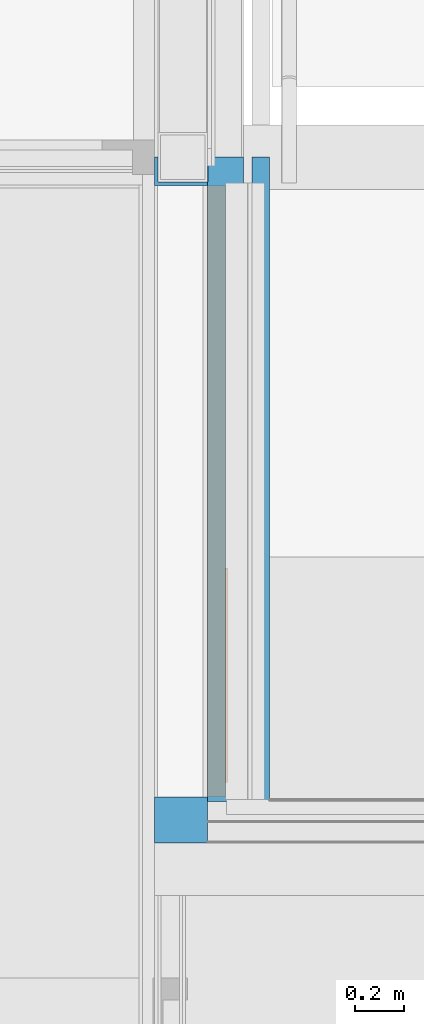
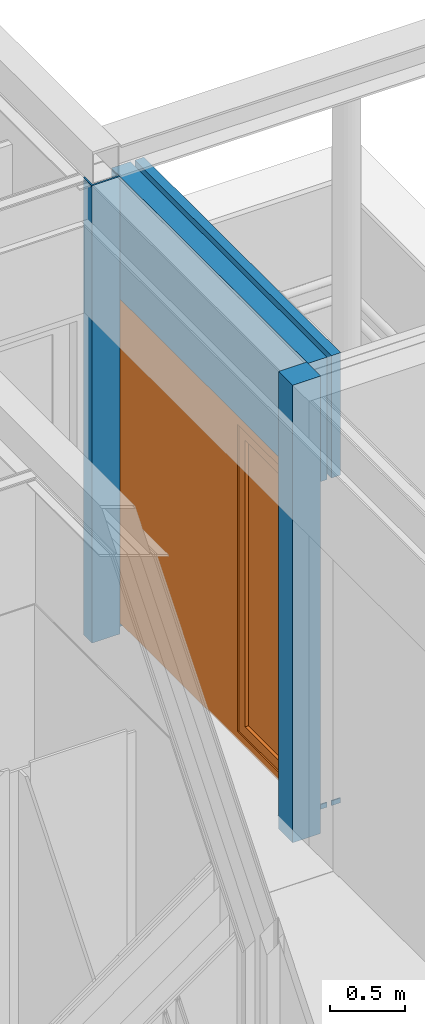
# One storey, part 91 of 137: 3 building element parts, 1 proxy, 1 opening, 1 element without a shape of its own.
"""IFC2X3 building model written with IfcOpenShell, lengths in millimetres."""

from ifc_helpers import new_model, entity, si_unit, converted_unit, derived_unit, money_unit, direction, frame, origin_with_axes, place, context, subcontext, project, spatial, open_shell, faceted_brep, surface_model, material, type_object, element, fill, aggregate, save


model = new_model("IFC2X3")

# Units and contexts
model_context = context("Model", 3, precision=0.01, world=origin_with_axes(), true_north=direction((0.0, 1.0)))
body_context = subcontext(model_context, "Body", "Model", "MODEL_VIEW")
ifc_project = project(units=[si_unit("LENGTHUNIT", "METRE", prefix="MILLI"), si_unit("AREAUNIT", "SQUARE_METRE"), si_unit("VOLUMEUNIT", "CUBIC_METRE"), converted_unit("PLANEANGLEUNIT", "DEGREE", entity("IfcPlaneAngleMeasure", 0.0174532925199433), si_unit("PLANEANGLEUNIT", "RADIAN"), dimensions=[0, 0, 0, 0, 0, 0, 0]), money_unit("EUR"), converted_unit("TIMEUNIT", "Year", entity("IfcTimeMeasure", 31556926.0), si_unit("TIMEUNIT", "SECOND"), dimensions=[0, 0, 1, 0, 0, 0, 0]), si_unit("MASSUNIT", "GRAM", prefix="KILO"), si_unit("THERMODYNAMICTEMPERATUREUNIT", "DEGREE_CELSIUS"), si_unit("LUMINOUSINTENSITYUNIT", "LUMEN"), si_unit("ENERGYUNIT", "JOULE", prefix="MEGA"), derived_unit("THERMALCONDUCTANCEUNIT", [(si_unit("POWERUNIT", "WATT"), 1), (si_unit("LENGTHUNIT", "METRE"), -1), (si_unit("THERMODYNAMICTEMPERATUREUNIT", "KELVIN"), -1)]), derived_unit("SPECIFICHEATCAPACITYUNIT", [(si_unit("ENERGYUNIT", "JOULE"), 1), (si_unit("MASSUNIT", "GRAM", prefix="KILO"), -1), (si_unit("THERMODYNAMICTEMPERATUREUNIT", "KELVIN"), -1)]), derived_unit("MASSDENSITYUNIT", [(si_unit("MASSUNIT", "GRAM", prefix="KILO"), 1), (si_unit("VOLUMEUNIT", "CUBIC_METRE"), -1)])], contexts=[model_context])

# Site, building, storey
site_placement = place(None, origin_with_axes())
site = spatial("IfcSite", under=ifc_project, at=site_placement, Name="Site", CompositionType="ELEMENT")
building_placement = place(site_placement, origin_with_axes())
building = spatial("IfcBuilding", under=site, at=building_placement, Name="Naam gebouw", CompositionType="ELEMENT")
storey_placement = place(building_placement, frame((0.0, 0.0, 3960.0), z_axis=(0.0, 0.0, 1.0), x_axis=(1.0, 0.0, 0.0)))
storey = spatial("IfcBuildingStorey", under=building, at=storey_placement, Name="1e verdieping", CompositionType="ELEMENT", Elevation=3960.0)

# Proxy
building_element_proxy_type = type_object("IfcBuildingElementProxyType", Name="Rnx horizontaal 26", PredefinedType="NOTDEFINED")
wall_placement = place(storey_placement, frame((26600.00000223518, 22324.99984707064, -100.0000000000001), z_axis=(0.0, 0.0, 1.0), x_axis=(-8.054688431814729e-10, -1.0, 0.0)))
opening_placement = place(wall_placement, frame((1351.499454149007, 0.0, 90.0000000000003), z_axis=(0.0, 0.0, 1.0), x_axis=(1.0, 0.0, 0.0)))
proxy_placement = place(opening_placement, frame((-1237.500000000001, 0.0, 0.0), z_axis=(0.0, 0.0, 1.0), x_axis=(1.0, 0.0, 0.0)))
proxy = element("IfcBuildingElementProxy", 1, at=proxy_placement, inside=storey, type_object=building_element_proxy_type, Name="_Merk BG", context=body_context, shape_type="SurfaceModel", body=[
    faceted_brep([(2416.999999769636, 72.00000203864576, 2552.0), (2416.999999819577, 10.0000020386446, 2552.0), (2406.999999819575, 10.00000203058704, 2552.0), (2406.999999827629, 2.030589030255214e-06, 2552.0), (2474.999999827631, 2.085361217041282e-06, 2552.0), (2474.999999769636, 72.00000208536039, 2552.0), (2416.999999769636, 72.00000203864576, 68.00000000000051), (2416.999999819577, 10.0000020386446, 68.00000000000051), (2406.999999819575, 10.00000203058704, 68.00000000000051), (2406.999999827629, 2.030589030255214e-06, 68.00000000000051), (2474.999999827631, 2.085361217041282e-06, 68.00000000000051), (2474.999999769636, 72.00000208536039, 68.00000000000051)], [[[0, 1, 2, 3, 4, 5]], [[1, 0, 6, 7]], [[8, 2, 1, 7]], [[2, 8, 9, 3]], [[4, 3, 9, 10]], [[5, 4, 10, 11]], [[6, 0, 5, 11]], [[7, 6, 11, 10, 9, 8]]]),
    faceted_brep([(2416.999999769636, 72.00000203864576, 2552.0), (2416.999999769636, 72.00000203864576, 2562.0), (1548.999999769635, 72.00000133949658, 2562.0), (1548.999999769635, 72.00000133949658, 2552.0), (1490.999999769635, 72.00000129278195, 2552.0), (67.99999976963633, 72.00000014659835, 2552.0), (-2.303650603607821e-07, 72.00000009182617, 2552.0), (-2.303650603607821e-07, 72.00000009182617, 2620.0), (2474.999999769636, 72.00000208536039, 2620.0), (2474.999999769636, 72.00000208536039, 2552.0), (2416.999999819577, 10.0000020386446, 2552.0), (2416.999999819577, 10.0000020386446, 2562.0), (1548.999999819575, 10.00000133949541, 2562.0), (1548.999999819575, 10.00000133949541, 2552.0), (1558.999999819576, 10.00000134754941, 2552.0), (1558.999999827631, 1.347551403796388e-06, 2552.0), (1490.999999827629, 1.292782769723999e-06, 2552.0), (67.99999982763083, 1.465991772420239e-07, 2552.0), (-1.723705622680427e-07, 9.182699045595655e-08, 2552.0), (-1.723705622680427e-07, 9.182699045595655e-08, 2620.0), (2474.999999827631, 2.085361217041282e-06, 2620.0), (2474.999999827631, 2.085361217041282e-06, 2552.0), (2406.999999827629, 2.030589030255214e-06, 2552.0), (2406.999999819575, 10.00000203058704, 2552.0)], [[[0, 1, 2, 3, 4, 5, 6, 7, 8, 9]], [[1, 0, 10, 11]], [[2, 1, 11, 12]], [[3, 2, 12, 13]], [[13, 14, 15, 16, 4, 3]], [[4, 16, 17, 5]], [[5, 17, 18, 6]], [[6, 18, 19, 7]], [[7, 19, 20, 8]], [[8, 20, 21, 9]], [[10, 0, 9, 21, 22, 23]], [[14, 13, 12, 11, 10, 23]], [[14, 23, 22, 15]], [[18, 17, 16, 15, 22, 21, 20, 19]]]),
    faceted_brep([(1558.999999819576, 10.00000134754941, 68.00000000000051), (1548.999999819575, 10.00000133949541, 68.00000000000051), (1548.999999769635, 72.00000133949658, 68.00000000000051), (1490.999999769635, 72.00000129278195, 68.00000000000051), (1490.999999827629, 1.292782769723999e-06, 68.00000000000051), (1558.999999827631, 1.347551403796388e-06, 68.00000000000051), (2406.999999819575, 10.00000203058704, 68.00000000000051), (2416.999999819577, 10.0000020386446, 68.00000000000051), (2416.999999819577, 10.0000020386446, 57.99999999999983), (1548.999999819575, 10.00000133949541, 57.99999999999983), (1548.999999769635, 72.00000133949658, 57.99999999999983), (2416.999999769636, 72.00000203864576, 57.99999999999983), (2416.999999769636, 72.00000203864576, 68.00000000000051), (2474.999999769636, 72.00000208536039, 68.00000000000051), (2474.999999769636, 72.00000208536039, 0.0), (-2.303650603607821e-07, 72.00000009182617, 0.0), (-2.303650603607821e-07, 72.00000009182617, 68.00000000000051), (67.99999976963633, 72.00000014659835, 68.00000000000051), (67.99999982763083, 1.465991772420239e-07, 68.00000000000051), (-1.723705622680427e-07, 9.182699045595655e-08, 68.00000000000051), (-1.723705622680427e-07, 9.182699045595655e-08, 0.0), (2474.999999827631, 2.085361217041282e-06, 0.0), (2474.999999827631, 2.085361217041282e-06, 68.00000000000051), (2406.999999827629, 2.030589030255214e-06, 68.00000000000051)], [[[0, 1, 2, 3, 4, 5]], [[1, 0, 6, 7, 8, 9]], [[10, 2, 1, 9]], [[11, 12, 13, 14, 15, 16, 17, 3, 2, 10]], [[17, 18, 4, 3]], [[5, 4, 18, 19, 20, 21, 22, 23]], [[6, 0, 5, 23]], [[7, 6, 23, 22, 13, 12]], [[7, 12, 11, 8]], [[11, 10, 9, 8]], [[13, 22, 21, 14]], [[14, 21, 20, 15]], [[15, 20, 19, 16]], [[16, 19, 18, 17]]]),
    faceted_brep([(1558.999999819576, 10.00000134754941, 2552.0), (1548.999999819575, 10.00000133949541, 2552.0), (1548.999999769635, 72.00000133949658, 2552.0), (1490.999999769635, 72.00000129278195, 2552.0), (1490.999999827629, 1.292782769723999e-06, 2552.0), (1558.999999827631, 1.347551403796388e-06, 2552.0), (1558.999999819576, 10.00000134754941, 68.00000000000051), (1548.999999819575, 10.00000133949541, 68.00000000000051), (1548.999999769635, 72.00000133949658, 68.00000000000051), (1490.999999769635, 72.00000129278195, 68.00000000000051), (1490.999999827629, 1.292782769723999e-06, 68.00000000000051), (1558.999999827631, 1.347551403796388e-06, 68.00000000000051)], [[[0, 1, 2, 3, 4, 5]], [[1, 0, 6, 7]], [[8, 2, 1, 7]], [[2, 8, 9, 3]], [[9, 10, 4, 3]], [[4, 10, 11, 5]], [[6, 0, 5, 11]], [[7, 6, 11, 10, 9, 8]]]),
    faceted_brep([(67.99999982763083, 1.465991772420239e-07, 67.99999999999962), (-1.723705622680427e-07, 9.182699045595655e-08, 67.99999999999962), (-2.303650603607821e-07, 72.00000009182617, 67.99999999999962), (67.99999976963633, 72.00000014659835, 67.99999999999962), (67.99999982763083, 1.465991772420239e-07, 2552.0), (-1.723705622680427e-07, 9.182699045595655e-08, 2552.0), (-2.303650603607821e-07, 72.00000009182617, 2552.0), (67.99999976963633, 72.00000014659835, 2552.0)], [[[0, 1, 2, 3]], [[0, 4, 5, 1]], [[1, 5, 6, 2]], [[3, 2, 6, 7]], [[4, 0, 3, 7]], [[5, 4, 7, 6]]]),
    faceted_brep([(2322.999999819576, 10.00000196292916, 2468.0), (2416.999999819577, 10.0000020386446, 2468.0), (2416.999999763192, 80.00000203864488, 2468.0), (2322.999999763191, 80.00000196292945, 2468.0), (2322.999999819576, 10.00000196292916, 152.0000000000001), (2416.999999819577, 10.0000020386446, 152.0000000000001), (2416.999999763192, 80.00000203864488, 152.0000000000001), (2322.999999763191, 80.00000196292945, 152.0000000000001)], [[[0, 1, 2, 3]], [[0, 4, 5, 1]], [[1, 5, 6, 2]], [[3, 2, 6, 7]], [[4, 0, 3, 7]], [[5, 4, 7, 6]]]),
    faceted_brep([(1642.999999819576, 10.00000141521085, 152.0000000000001), (1548.999999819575, 10.00000133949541, 152.0000000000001), (1548.99999976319, 80.0000013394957, 152.0000000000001), (1642.999999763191, 80.00000141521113, 152.0000000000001), (1642.999999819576, 10.00000141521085, 2468.0), (1548.999999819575, 10.00000133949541, 2468.0), (1548.99999976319, 80.0000013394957, 2468.0), (1642.999999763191, 80.00000141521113, 2468.0)], [[[0, 1, 2, 3]], [[0, 4, 5, 1]], [[1, 5, 6, 2]], [[3, 2, 6, 7]], [[4, 0, 3, 7]], [[5, 4, 7, 6]]]),
    faceted_brep([(1548.999999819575, 10.00000133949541, 57.99999999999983), (1548.999999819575, 10.00000133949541, 152.0000000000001), (1548.99999976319, 80.0000013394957, 152.0000000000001), (1548.99999976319, 80.0000013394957, 57.99999999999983), (2416.999999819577, 10.0000020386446, 57.99999999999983), (2416.999999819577, 10.0000020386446, 152.0000000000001), (2322.999999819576, 10.00000196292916, 152.0000000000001), (1642.999999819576, 10.00000141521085, 152.0000000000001), (1642.999999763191, 80.00000141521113, 152.0000000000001), (2322.999999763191, 80.00000196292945, 152.0000000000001), (2416.999999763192, 80.00000203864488, 152.0000000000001), (2416.999999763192, 80.00000203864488, 57.99999999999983)], [[[0, 1, 2, 3]], [[0, 4, 5, 6, 7, 1]], [[1, 7, 8, 2]], [[3, 2, 8, 9, 10, 11]], [[4, 0, 3, 11]], [[5, 4, 11, 10]], [[6, 5, 10, 9]], [[7, 6, 9, 8]]]),
    faceted_brep([(2416.999999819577, 10.0000020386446, 2562.0), (2416.999999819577, 10.0000020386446, 2468.0), (2416.999999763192, 80.00000203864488, 2468.0), (2416.999999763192, 80.00000203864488, 2562.0), (1548.999999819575, 10.00000133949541, 2562.0), (1548.999999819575, 10.00000133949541, 2468.0), (1642.999999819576, 10.00000141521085, 2468.0), (2322.999999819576, 10.00000196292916, 2468.0), (2322.999999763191, 80.00000196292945, 2468.0), (1642.999999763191, 80.00000141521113, 2468.0), (1548.99999976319, 80.0000013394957, 2468.0), (1548.99999976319, 80.0000013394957, 2562.0)], [[[0, 1, 2, 3]], [[0, 4, 5, 6, 7, 1]], [[1, 7, 8, 2]], [[3, 2, 8, 9, 10, 11]], [[4, 0, 3, 11]], [[5, 4, 11, 10]], [[6, 5, 10, 9]], [[7, 6, 9, 8]]]),
    surface_model("IfcShellBasedSurfaceModel", [(2322.999999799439, 35.00000196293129, 152.0000000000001), (2322.999999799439, 35.00000196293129, 2468.0), (1642.999999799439, 35.00000141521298, 2468.0), (1642.999999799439, 35.00000141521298, 152.0000000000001)], [open_shell([[[0, 1, 2, 3]]])]),
    surface_model("IfcShellBasedSurfaceModel", [(2322.999999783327, 55.00000196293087, 152.0000000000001), (1642.999999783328, 55.00000141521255, 152.0000000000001), (1642.999999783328, 55.00000141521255, 2468.0), (2322.999999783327, 55.00000196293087, 2468.0)], [open_shell([[[0, 1, 2, 3]]])]),
    surface_model("IfcShellBasedSurfaceModel", [(1490.999999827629, 1.292782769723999e-06, 67.99999999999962), (1490.999999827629, 1.292782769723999e-06, 2552.0), (67.99999982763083, 1.465991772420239e-07, 2552.0), (67.99999982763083, 1.465991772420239e-07, 67.99999999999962)], [open_shell([[[0, 1, 2, 3]]])]),
    surface_model("IfcShellBasedSurfaceModel", [(1490.999999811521, 20.00000129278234, 67.99999999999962), (67.99999981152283, 20.00000014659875, 67.99999999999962), (67.99999981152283, 20.00000014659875, 2552.0), (1490.999999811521, 20.00000129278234, 2552.0)], [open_shell([[[0, 1, 2, 3]]])]),
])

# Wall, opening
wall_type = type_object("IfcWallType", Name="21 Buitenwand spouwmuur 464", PredefinedType="NOTDEFINED")
wall = element("IfcWall", 2, at=wall_placement, inside=storey, type_object=wall_type, Name="21_Wand-x")
opening = element("IfcOpeningElement", 3, at=opening_placement, cuts=wall, Name="_Merk BG", context=body_context, shape_type="Brep", body=[
    faceted_brep([(1237.49999982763, 2.085361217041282e-06, 2620.0), (-1237.500000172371, 9.182699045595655e-08, 2620.0), (-1237.500000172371, 9.182699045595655e-08, 3620.0), (1237.49999982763, 2.085357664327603e-06, 3620.0), (1237.499999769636, 72.00000208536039, 2620.0), (-1237.500000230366, 72.00000009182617, 2620.0), (-1237.500000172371, 9.182699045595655e-08, -600.0000000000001), (-1237.499999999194, -215.0000021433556, -600.0000000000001), (-1237.499999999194, -215.000002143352, 3620.0), (1237.500000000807, -215.0000001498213, 3620.0), (1237.49999982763, 2.085361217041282e-06, -600.0000000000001), (1237.500000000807, -215.0000001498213, -600.0000000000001), (1237.499999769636, 72.00000208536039, -600.0000000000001), (1247.499999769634, 72.00000209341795, 2620.0), (1247.499999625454, 251.0000020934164, 2620.0), (-1247.500000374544, 251.0000000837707, 2620.0), (-1247.500000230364, 72.00000008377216, 2620.0), (-1237.500000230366, 72.00000009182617, -600.0000000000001), (1247.499999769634, 72.00000209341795, -600.0000000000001), (1247.499999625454, 251.0000020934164, -600.0000000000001), (-1247.500000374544, 251.0000000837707, -600.0000000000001), (-1247.500000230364, 72.00000008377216, -600.0000000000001)], [[[0, 1, 2, 3]], [[1, 0, 4, 5]], [[1, 6, 7, 8, 2]], [[3, 2, 8, 9]], [[10, 0, 3, 9, 11]], [[0, 10, 12, 4]], [[5, 4, 13, 14, 15, 16]], [[6, 1, 5, 17]], [[10, 11, 7, 6, 17, 12]], [[8, 7, 11, 9]], [[4, 12, 18, 13]], [[13, 18, 19, 14]], [[14, 19, 20, 15]], [[21, 16, 15, 20]], [[17, 5, 16, 21]], [[12, 17, 21, 20, 19, 18]]]),
])

fill(opening, proxy)

# Building element part
ifc_material_1 = material(Name="Steen - Baksteen")
building_element_part_1_placement = place(wall_placement, origin_with_axes())
building_element_part_1 = element("IfcBuildingElementPart", 4, at=building_element_part_1_placement, material=ifc_material_1, Name="Steen - Baksteen", context=body_context, shape_type="Brep", body=[
    faceted_brep([(2598.999453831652, 180.0000020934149, 100.0000000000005), (2598.999453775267, 250.0000020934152, 100.0000000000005), (2598.999453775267, 250.0000020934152, 59.99999999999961), (2598.999453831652, 180.0000020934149, 59.99999999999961), (2606.999453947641, 250.0000020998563, 100.0000000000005), (2606.999454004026, 180.000002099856, 100.0000000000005), (2606.999453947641, 250.0000020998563, 59.99999999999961), (2606.999454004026, 180.000002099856, 59.99999999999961)], [[[0, 1, 2, 3]], [[4, 1, 0, 5]], [[1, 4, 6, 2]], [[6, 7, 3, 2]], [[5, 0, 3, 7]], [[4, 5, 7, 6]]]),
    faceted_brep([(2606.999453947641, 250.0000020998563, 2710.0), (2598.999453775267, 250.0000020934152, 2710.0), (-2.013678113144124e-07, 250.0, 2710.0), (-2.013678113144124e-07, 250.0, 3700.0), (2606.999453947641, 250.0000020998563, 3700.0), (2598.999453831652, 180.0000020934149, 2710.0), (2606.999454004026, 180.000002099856, 2710.0), (103.9994538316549, 180.0000000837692, 2710.0), (103.9994541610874, 235.000026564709, 2710.0), (-1.892850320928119e-07, 235.0000264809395, 2710.0), (-1.892850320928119e-07, 235.0000264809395, 2650.000001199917), (-2.013678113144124e-07, 250.0000264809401, 2650.000001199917), (-2.013678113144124e-07, 250.0000264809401, 2600.00005763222), (-1.892850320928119e-07, 235.0000264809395, 2600.00005763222), (-1.892850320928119e-07, 235.0000264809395, 2530.000059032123), (-2.013678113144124e-07, 250.0000264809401, 2530.000059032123), (-2.013678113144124e-07, 250.0000264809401, 2480.000004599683), (-1.892850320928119e-07, 235.0000264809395, 2480.000004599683), (-1.892850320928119e-07, 235.0000264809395, 2410.000005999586), (-2.013678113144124e-07, 250.0000264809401, 2410.000005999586), (-2.013678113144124e-07, 250.0000264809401, 2360.000062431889), (-1.892850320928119e-07, 235.0000264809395, 2360.000062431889), (-1.892850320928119e-07, 235.0000264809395, 2290.000063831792), (-2.013678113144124e-07, 250.0000264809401, 2290.000063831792), (-2.013678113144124e-07, 250.0000264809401, 2239.999981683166), (-1.892850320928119e-07, 235.0000264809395, 2239.999981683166), (-1.892850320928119e-07, 235.0000264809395, 2170.000010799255), (-2.013678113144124e-07, 250.0000264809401, 2170.000010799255), (-2.013678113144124e-07, 250.0000264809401, 2120.000039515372), (-1.892850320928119e-07, 235.0000264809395, 2120.000039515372), (-1.892850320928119e-07, 235.0000264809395, 2050.000068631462), (-2.013678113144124e-07, 250.0000264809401, 2050.000068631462), (-2.013678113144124e-07, 250.0000264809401, 1999.999986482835), (-1.892850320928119e-07, 235.0000264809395, 1999.999986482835), (-1.892850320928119e-07, 235.0000264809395, 1930.000015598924), (-2.013678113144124e-07, 250.0000264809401, 1930.000015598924), (-2.013678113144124e-07, 250.0000264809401, 1880.000044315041), (-1.892850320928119e-07, 235.0000264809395, 1880.000044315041), (-1.892850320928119e-07, 235.0000264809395, 1810.000073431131), (-2.013678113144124e-07, 250.0000264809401, 1810.000073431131), (-2.013678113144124e-07, 250.0000264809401, 1759.999991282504), (-1.892850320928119e-07, 235.0000264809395, 1759.999991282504), (-1.892850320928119e-07, 235.0000264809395, 1689.999992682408), (-2.013678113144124e-07, 250.0000264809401, 1689.999992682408), (-2.013678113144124e-07, 250.0000264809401, 1640.000049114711), (-1.892850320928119e-07, 235.0000264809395, 1640.000049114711), (-1.892850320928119e-07, 235.0000264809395, 1570.000050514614), (-2.013678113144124e-07, 250.0000264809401, 1570.000050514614), (-2.013678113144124e-07, 250.0000264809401, 1519.999996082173), (-1.892850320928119e-07, 235.0000264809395, 1519.999996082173), (-1.892850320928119e-07, 235.0000264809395, 1449.999997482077), (-2.013678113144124e-07, 250.0000264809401, 1449.999997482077), (-2.013678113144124e-07, 250.0000264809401, 1400.000026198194), (-1.892850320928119e-07, 235.0000264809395, 1400.000026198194), (-1.892850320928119e-07, 235.0000264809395, 1330.000055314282), (-2.013678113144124e-07, 250.0000264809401, 1330.000055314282), (-2.013678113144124e-07, 250.0000264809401, 1280.000000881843), (-1.892850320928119e-07, 235.0000264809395, 1280.000000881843), (-1.892850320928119e-07, 235.0000264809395, 1210.000002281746), (-2.013678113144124e-07, 250.0000264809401, 1210.000002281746), (-2.013678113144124e-07, 250.0000264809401, 1160.000030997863), (-1.892850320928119e-07, 235.0000264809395, 1160.000030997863), (-1.892850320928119e-07, 235.0000264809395, 1090.000060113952), (-2.013678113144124e-07, 250.0000264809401, 1090.000060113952), (-2.013678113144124e-07, 250.0000264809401, 1040.000005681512), (-1.892850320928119e-07, 235.0000264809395, 1040.000005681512), (-1.892850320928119e-07, 235.0000264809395, 970.0000070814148), (-2.013678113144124e-07, 250.0000264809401, 970.0000070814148), (-2.013678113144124e-07, 250.0000264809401, 920.0000357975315), (-1.892850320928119e-07, 235.0000264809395, 920.0000357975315), (-1.892850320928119e-07, 235.0000264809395, 850.0000371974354), (-2.013678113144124e-07, 250.0, 850.0000371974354), (-2.013678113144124e-07, 250.0, 59.99999999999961), (-1.449826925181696e-07, 179.9999999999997, 59.99999999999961), (-1.449826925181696e-07, 179.9999999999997, 3700.0), (2606.999454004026, 180.000002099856, 3700.0), (103.9994538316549, 180.0000000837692, 59.99999999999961), (103.9994541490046, 250.0000265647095, 2650.000001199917), (103.9994541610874, 235.000026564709, 2650.000001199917), (103.9994537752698, 250.0000000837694, 59.99999999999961), (103.9994541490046, 250.0000000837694, 850.0000371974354), (103.9994541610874, 235.000026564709, 850.0000371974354), (103.9994541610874, 235.000026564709, 920.0000357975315), (103.9994541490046, 250.0000265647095, 920.0000357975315), (103.9994541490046, 250.0000265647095, 970.0000070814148), (103.9994541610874, 235.000026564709, 970.0000070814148), (103.9994541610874, 235.000026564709, 1040.000005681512), (103.9994541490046, 250.0000265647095, 1040.000005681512), (103.9994541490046, 250.0000265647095, 1090.000060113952), (103.9994541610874, 235.000026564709, 1090.000060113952), (103.9994541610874, 235.000026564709, 1160.000030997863), (103.9994541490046, 250.0000265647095, 1160.000030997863), (103.9994541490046, 250.0000265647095, 1210.000002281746), (103.9994541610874, 235.000026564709, 1210.000002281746), (103.9994541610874, 235.000026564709, 1280.000000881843), (103.9994541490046, 250.0000265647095, 1280.000000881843), (103.9994541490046, 250.0000265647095, 1330.000055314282), (103.9994541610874, 235.000026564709, 1330.000055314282), (103.9994541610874, 235.000026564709, 1400.000026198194), (103.9994541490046, 250.0000265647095, 1400.000026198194), (103.9994541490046, 250.0000265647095, 1449.999997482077), (103.9994541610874, 235.000026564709, 1449.999997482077), (103.9994541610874, 235.000026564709, 1519.999996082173), (103.9994541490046, 250.0000265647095, 1519.999996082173), (103.9994541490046, 250.0000265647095, 1570.000050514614), (103.9994541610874, 235.000026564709, 1570.000050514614), (103.9994541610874, 235.000026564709, 1640.000049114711), (103.9994541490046, 250.0000265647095, 1640.000049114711), (103.9994541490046, 250.0000265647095, 1689.999992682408), (103.9994541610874, 235.000026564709, 1689.999992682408), (103.9994541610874, 235.000026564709, 1759.999991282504), (103.9994541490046, 250.0000265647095, 1759.999991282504), (103.9994541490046, 250.0000265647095, 1810.000073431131), (103.9994541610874, 235.000026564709, 1810.000073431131), (103.9994541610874, 235.000026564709, 1880.000044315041), (103.9994541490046, 250.0000265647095, 1880.000044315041), (103.9994541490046, 250.0000265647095, 1930.000015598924), (103.9994541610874, 235.000026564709, 1930.000015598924), (103.9994541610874, 235.000026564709, 1999.999986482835), (103.9994541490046, 250.0000265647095, 1999.999986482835), (103.9994541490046, 250.0000265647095, 2050.000068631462), (103.9994541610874, 235.000026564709, 2050.000068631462), (103.9994541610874, 235.000026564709, 2120.000039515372), (103.9994541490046, 250.0000265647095, 2120.000039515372), (103.9994541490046, 250.0000265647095, 2170.000010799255), (103.9994541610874, 235.000026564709, 2170.000010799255), (103.9994541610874, 235.000026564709, 2239.999981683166), (103.9994541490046, 250.0000265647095, 2239.999981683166), (103.9994541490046, 250.0000265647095, 2290.000063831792), (103.9994541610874, 235.000026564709, 2290.000063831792), (103.9994541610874, 235.000026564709, 2360.000062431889), (103.9994541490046, 250.0000265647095, 2360.000062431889), (103.9994541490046, 250.0000265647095, 2410.000005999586), (103.9994541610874, 235.000026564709, 2410.000005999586), (103.9994541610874, 235.000026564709, 2480.000004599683), (103.9994541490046, 250.0000265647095, 2480.000004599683), (103.9994541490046, 250.0000265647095, 2530.000059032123), (103.9994541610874, 235.000026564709, 2530.000059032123), (103.9994541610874, 235.000026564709, 2600.00005763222), (103.9994541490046, 250.0000265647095, 2600.00005763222)], [[[0, 1, 2, 3, 4]], [[5, 1, 0, 6]], [[1, 5, 7, 8, 9, 2]], [[9, 10, 11, 12, 13, 14, 15, 16, 17, 18, 19, 20, 21, 22, 23, 24, 25, 26, 27, 28, 29, 30, 31, 32, 33, 34, 35, 36, 37, 38, 39, 40, 41, 42, 43, 44, 45, 46, 47, 48, 49, 50, 51, 52, 53, 54, 55, 56, 57, 58, 59, 60, 61, 62, 63, 64, 65, 66, 67, 68, 69, 70, 71, 72, 73, 74, 3, 2]], [[74, 75, 4, 3]], [[6, 0, 4, 75]], [[5, 6, 75, 74, 73, 76, 7]], [[77, 78, 8, 7, 76, 79, 80, 81, 82, 83, 84, 85, 86, 87, 88, 89, 90, 91, 92, 93, 94, 95, 96, 97, 98, 99, 100, 101, 102, 103, 104, 105, 106, 107, 108, 109, 110, 111, 112, 113, 114, 115, 116, 117, 118, 119, 120, 121, 122, 123, 124, 125, 126, 127, 128, 129, 130, 131, 132, 133, 134, 135, 136, 137, 138, 139]], [[78, 10, 9, 8]], [[78, 77, 11, 10]], [[12, 11, 77, 139]], [[138, 13, 12, 139]], [[137, 14, 13, 138]], [[137, 136, 15, 14]], [[16, 15, 136, 135]], [[134, 17, 16, 135]], [[133, 18, 17, 134]], [[133, 132, 19, 18]], [[20, 19, 132, 131]], [[130, 21, 20, 131]], [[129, 22, 21, 130]], [[129, 128, 23, 22]], [[24, 23, 128, 127]], [[126, 25, 24, 127]], [[125, 26, 25, 126]], [[125, 124, 27, 26]], [[28, 27, 124, 123]], [[122, 29, 28, 123]], [[121, 30, 29, 122]], [[121, 120, 31, 30]], [[32, 31, 120, 119]], [[118, 33, 32, 119]], [[117, 34, 33, 118]], [[117, 116, 35, 34]], [[36, 35, 116, 115]], [[114, 37, 36, 115]], [[113, 38, 37, 114]], [[113, 112, 39, 38]], [[40, 39, 112, 111]], [[110, 41, 40, 111]], [[109, 42, 41, 110]], [[109, 108, 43, 42]], [[44, 43, 108, 107]], [[106, 45, 44, 107]], [[105, 46, 45, 106]], [[105, 104, 47, 46]], [[48, 47, 104, 103]], [[102, 49, 48, 103]], [[101, 50, 49, 102]], [[101, 100, 51, 50]], [[52, 51, 100, 99]], [[98, 53, 52, 99]], [[97, 54, 53, 98]], [[97, 96, 55, 54]], [[56, 55, 96, 95]], [[94, 57, 56, 95]], [[93, 58, 57, 94]], [[93, 92, 59, 58]], [[60, 59, 92, 91]], [[90, 61, 60, 91]], [[89, 62, 61, 90]], [[89, 88, 63, 62]], [[64, 63, 88, 87]], [[86, 65, 64, 87]], [[85, 66, 65, 86]], [[85, 84, 67, 66]], [[68, 67, 84, 83]], [[82, 69, 68, 83]], [[81, 70, 69, 82]], [[81, 80, 71, 70]], [[72, 71, 80, 79]], [[73, 72, 79, 76]]]),
])

ifc_material_2 = material(Name="Isolatie - Steenwol zacht")
building_element_part_2_placement = place(wall_placement, origin_with_axes())
building_element_part_2 = element("IfcBuildingElementPart", 5, at=building_element_part_2_placement, material=ifc_material_2, Name="Isolatie - Steenwol zacht", context=body_context, shape_type="Brep", body=[
    faceted_brep([(2606.999454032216, 145.0000020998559, 2710.0), (2598.999453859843, 145.0000020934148, 2710.0), (103.9994538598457, 145.000000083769, 2710.0), (103.9994538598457, 145.000000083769, 59.99999999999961), (-1.167919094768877e-07, 144.9999999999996, 59.99999999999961), (-1.167919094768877e-07, 144.9999999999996, 3700.0), (2606.999454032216, 145.0000020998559, 3700.0), (2598.999453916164, 75.0733393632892, 2710.0), (2606.999454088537, 75.07333936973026, 2710.0), (2598.99945391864, 72.00000209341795, 2710.0), (2588.999453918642, 72.00000208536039, 2710.0), (113.9994539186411, 72.00000009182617, 2710.0), (103.9994539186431, 72.00000008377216, 2710.0), (103.9994539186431, 72.00000008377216, 59.99999999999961), (113.9994539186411, 72.00000009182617, 59.99999999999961), (113.9994539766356, 9.182699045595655e-08, 59.99999999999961), (0.0, 4.094829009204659e-05, 59.99999999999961), (0.0, 1.91242577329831e-07, 3683.0), (-1.288924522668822e-08, 15.99999776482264, 3683.0), (-1.288924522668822e-08, 15.99999776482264, 3695.000000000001), (-8.064660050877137e-10, 0.9999977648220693, 3695.000000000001), (-8.064660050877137e-10, 0.9999977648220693, 3700.0), (99.99999999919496, 0.9999978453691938, 3700.0), (100.0000000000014, 8.054712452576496e-08, 3700.0), (2606.999454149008, 2.099856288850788e-06, 3700.0), (2606.999454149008, 2.479030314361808e-06, 59.99999999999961), (2606.999454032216, 145.0000020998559, 59.99999999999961), (2606.999454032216, 145.0000020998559, 100.0000000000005), (2606.999454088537, 75.07333936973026, 100.0000000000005), (2598.999453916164, 75.0733393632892, 100.0000000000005), (2598.999453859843, 145.0000020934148, 100.0000000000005), (2598.999453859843, 145.0000020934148, 59.99999999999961), (2598.99945391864, 72.00000209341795, 59.99999999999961), (2588.999453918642, 72.00000208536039, 59.99999999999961), (113.9994539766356, 9.182699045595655e-08, 2710.0), (2588.999453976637, 2.085361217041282e-06, 2710.0), (2588.999453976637, 2.085361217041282e-06, 59.99999999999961), (100.0000000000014, 4.102883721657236e-05, 3683.0), (99.99999998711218, 15.99999784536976, 3683.0), (99.99999998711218, 15.99999784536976, 3695.000000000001), (99.99999999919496, 0.9999978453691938, 3695.000000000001)], [[[0, 1, 2, 3, 4, 5, 6]], [[7, 1, 0, 8]], [[1, 7, 9, 10, 11, 12, 2]], [[3, 2, 12, 13]], [[13, 14, 15, 16, 4, 3]], [[17, 18, 19, 20, 21, 5, 4, 16]], [[5, 21, 22, 23, 24, 6]], [[8, 0, 6, 24, 25, 26, 27, 28]], [[29, 7, 8, 28]], [[29, 30, 31, 32, 9, 7]], [[32, 33, 10, 9]], [[34, 11, 10, 35]], [[12, 11, 14, 13]], [[15, 14, 11, 34]], [[34, 35, 36, 25, 24, 23, 37, 17, 16, 15]], [[18, 17, 37, 38]], [[19, 18, 38, 39]], [[20, 19, 39, 40]], [[22, 21, 20, 40]], [[38, 37, 23, 22, 40, 39]], [[25, 36, 33, 32, 31, 26]], [[30, 27, 26, 31]], [[27, 30, 29, 28]], [[35, 10, 33, 36]]]),
])

ifc_material_3 = material(Name="Steen - Kalkzandsteen C")
building_element_part_3_placement = place(wall_placement, origin_with_axes())
building_element_part_3 = element("IfcBuildingElementPart", 6, at=building_element_part_3_placement, material=ifc_material_3, Name="Steen - Kalkzandsteen C", context=body_context, shape_type="Brep", body=[
    faceted_brep([(2588.999453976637, 2.085357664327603e-06, 0.0), (2588.999453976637, 2.085357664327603e-06, 3700.0), (2774.999454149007, 2.23517560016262e-06, 3700.0), (2774.999454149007, 2.23517560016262e-06, 0.0), (2588.999454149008, -213.999997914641, 3700.0), (2588.999454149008, -213.999997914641, 0.0), (2774.999454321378, -213.999997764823, 3700.0), (2774.999454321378, -213.999997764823, 0.0)], [[[0, 1, 2, 3]], [[4, 1, 0, 5]], [[1, 4, 6, 2]], [[3, 2, 6, 7]], [[5, 0, 3, 7]], [[4, 5, 7, 6]]]),
    faceted_brep([(113.9994541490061, -213.9999999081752, 3700.0), (113.9994539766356, 9.182699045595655e-08, 3700.0), (100.0000000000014, 8.054712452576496e-08, 3700.0), (100.0000000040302, -5.000002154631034, 3699.999999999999), (100.0000001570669, -195.0000021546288, 3699.999999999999), (100.0000001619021, -201.000002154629, 3700.0), (1.619007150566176e-07, -201.0000022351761, 3700.0), (1.723705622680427e-07, -213.9999999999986, 3700.0), (113.9994539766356, 9.182343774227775e-08, 0.0), (113.9994541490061, -213.9999999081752, 0.0), (100.0000000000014, -2.154628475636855e-06, 0.0), (100.0000000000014, -2.154628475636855e-06, 3683.000000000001), (100.0000001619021, -201.000002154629, 3695.000000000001), (100.0000001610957, -200.0000021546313, 0.0), (100.0000001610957, -200.0000021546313, 3683.0), (100.000000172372, -213.9999999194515, 3683.0), (100.000000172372, -213.9999999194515, 3695.000000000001), (1.619007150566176e-07, -201.0000022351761, 3695.000000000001), (1.723705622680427e-07, -213.9999999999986, 3695.000000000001), (1.723705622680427e-07, -213.9999999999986, 3683.0), (1.723705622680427e-07, -213.9999999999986, 0.0), (1.610942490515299e-07, -200.0000022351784, 0.0), (1.610942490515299e-07, -200.0000022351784, 3683.0)], [[[0, 1, 2, 3, 4, 5, 6, 7]], [[8, 1, 0, 9]], [[1, 8, 10, 11, 2]], [[12, 5, 4, 3, 2, 11, 10, 13, 14, 15, 16]], [[17, 6, 5, 12]], [[17, 18, 7, 6]], [[9, 0, 7, 18, 16, 15, 19, 20]], [[8, 9, 20, 21, 13, 10]], [[22, 14, 13, 21]], [[22, 19, 15, 14]], [[18, 17, 12, 16]], [[21, 20, 19, 22]]]),
])

aggregate(wall, [building_element_part_1, building_element_part_2, building_element_part_3])

save(model, "model.ifc")
